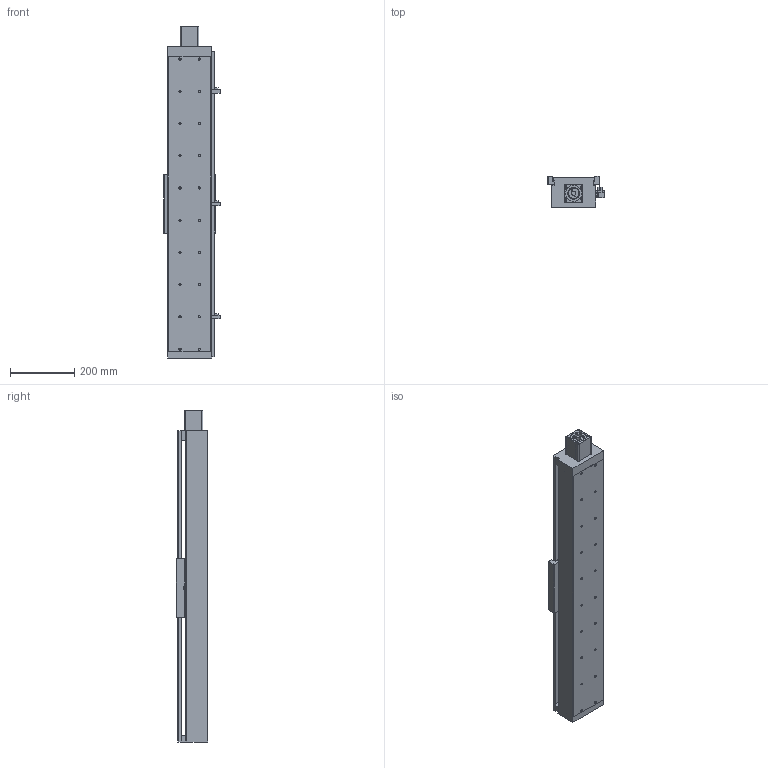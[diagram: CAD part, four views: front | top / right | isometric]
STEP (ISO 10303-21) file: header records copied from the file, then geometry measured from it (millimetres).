
FILE_DESCRIPTION((''),'2;1');
FILE_NAME('E:\libraries\UIA actuator library 2009\standard actuator\UIA136 ball screw 25\UIA136R15NDC-_ _ _-R25_ _, stp file 27Apr16\UIA136R15NDC-700-R25_ _-M60-P13-C10-S.stp','2016-04-28T16:50:48',('h029'),(''),'Autodesk Inventor 11','Autodesk Inventor 11','');
FILE_SCHEMA(('AUTOMOTIVE_DESIGN { 1 0 10303 214 1 1 1 1 }'));
Length unit declared in the file: millimetre
Products named in the file (10): UIA136R15NDC-700; UIA136R15NDC-body; motor mount F60; SOH-32C; SOH-32C-3; SOH-32C-1; SOH-32C-2; Carriage; Sensor Switch; sensor rail
Assembly tree (9 placements, depth 3):
  UIA136R15NDC-700
    UIA136R15NDC-body
    motor mount F60
    SOH-32C
      SOH-32C-3
      SOH-32C-1
      SOH-32C-2
    Carriage
    Sensor Switch
    sensor rail
Bounding box: 174.5 x 98 x 1030 mm (x, y, z)
Volume: 3997093.7 mm3; surface area: 1088128.6 mm2
Topology: 8 solids, 8 shells, 516 faces, 1355 edges, 886 vertices
Faces by surface type: plane 322, bspline 146, cylinder 44, cone 4
Full cylindrical faces by diameter (mm): 2.459 x2, 3.242 x2, 4.5 x2, 7 x4, 7.5 x2, 14 x3, 17 x1, 32 x3, 37 x1, 50.3 x1, 50.5 x1
Entity records: 16844 total; most frequent: CARTESIAN_POINT 4892, ORIENTED_EDGE 2304, DIRECTION 2258, EDGE_CURVE 1152, VERTEX_POINT 822, VECTOR 808, LINE 808, EDGE_LOOP 780
